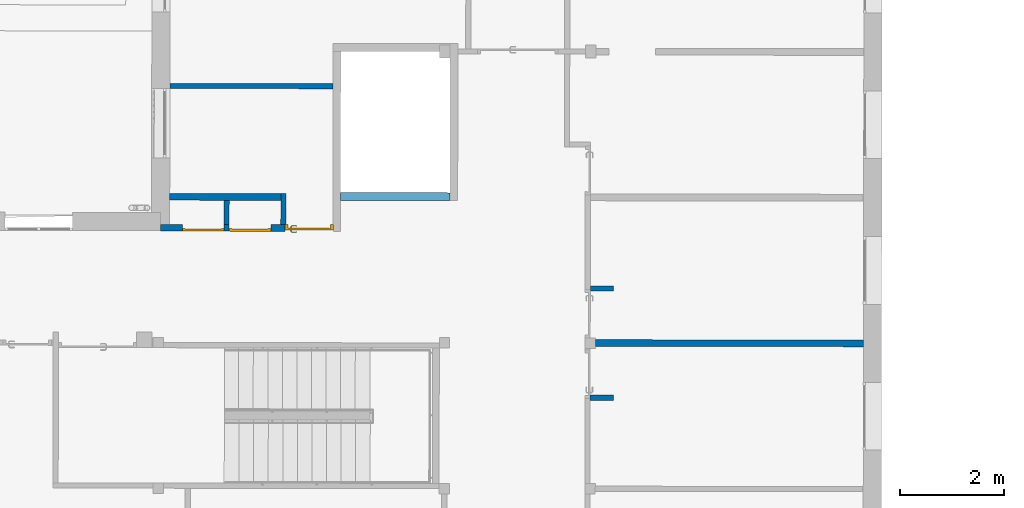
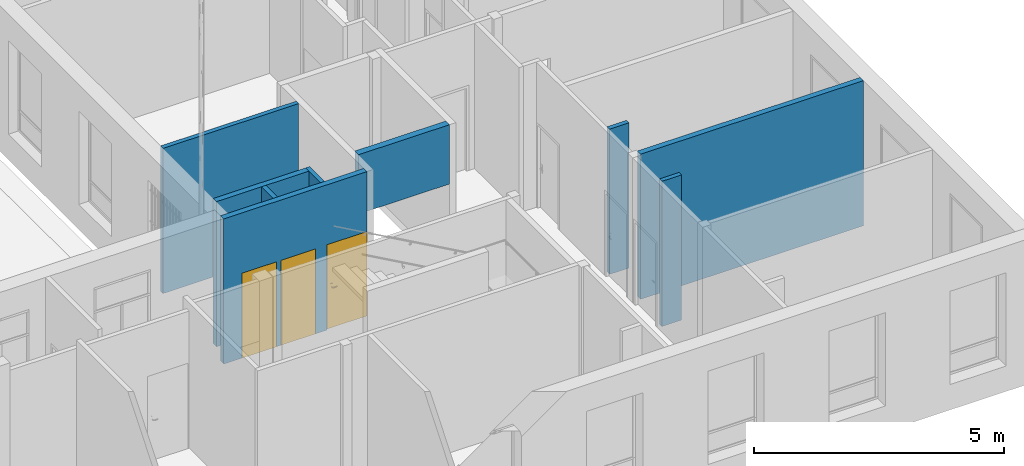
# One storey, part 75 of 101: 9 walls, 3 doors, 4 openings.
"""IFC2X3 building model written with IfcOpenShell, lengths in metres."""

from ifc_helpers import new_model, entity, si_unit, converted_unit, derived_unit, direction, frame, frame_2d, origin, place, context, subcontext, project, spatial, polyline, rectangle, outline, extrude, faceted_brep, source, transform, mapped, material, material_list, layer, layer_set, layer_usage, type_object, type_shapes, element, fill, save


model = new_model("IFC2X3")

# Units and contexts
model_context = context("Model", 3, precision=1e-05, world=origin(), true_north=direction((6.123233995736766e-17, 1.0)))
body_context = subcontext(model_context, "Body", "Model", "MODEL_VIEW")
ifc_project = project(units=[si_unit("LENGTHUNIT", "METRE"), si_unit("AREAUNIT", "SQUARE_METRE"), converted_unit("PLANEANGLEUNIT", "DEGREE", entity("IfcPlaneAngleMeasure", 0.017453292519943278), si_unit("PLANEANGLEUNIT", "RADIAN"), dimensions=[0, 0, 0, 0, 0, 0, 0]), derived_unit("THERMALTRANSMITTANCEUNIT", [(si_unit("MASSUNIT", "GRAM", prefix="KILO"), 1), (si_unit("THERMODYNAMICTEMPERATUREUNIT", "KELVIN"), -1), (si_unit("TIMEUNIT", "SECOND"), -3)])], contexts=[model_context])

# Site, building, storey
site_placement = place(None, frame((1253.6752467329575, 2072.143113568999, 91.49999999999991), z_axis=(0.0, 0.0, 1.0), x_axis=(0.7237211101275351, 0.6900925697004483, 0.0)))
site = spatial("IfcSite", under=ifc_project, at=site_placement, Name="Surface", CompositionType="ELEMENT")
building_placement = place(site_placement, origin())
building = spatial("IfcBuilding", under=site, at=building_placement, CompositionType="ELEMENT")
storey_placement = place(building_placement, origin())
storey = spatial("IfcBuildingStorey", under=building, at=storey_placement, Name="0- Rdc", CompositionType="ELEMENT", Elevation=-5.764692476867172e-13)

# Wall, openings, doors
ifc_material_1 = material(Name="OMD_Béton blanc")
ifc_layer_1 = layer(ifc_material_1, 0.12999999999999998)
ifc_layer_set_1 = layer_set([ifc_layer_1], Name="Mur de base:MUR 13")
ifc_layer_usage_1 = layer_usage(ifc_layer_set_1, "AXIS2", "NEGATIVE", 0.06499999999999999)
wall_type_1 = type_object("IfcWallType", Name="Mur de base:MUR 13", PredefinedType="STANDARD", material=ifc_layer_set_1)
wall_1_placement = place(storey_placement, frame((177.69139623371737, -16.14745948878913, 0.0), z_axis=(0.0, 0.0, 1.0), x_axis=(-0.7228702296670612, 0.6909838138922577, 0.0)))
wall_1 = element("IfcWallStandardCase", 1, at=wall_1_placement, inside=storey, type_object=wall_type_1, material=ifc_layer_usage_1, Name="Mur de base:MUR 13", ObjectType="Mur de base:MUR 13", context=body_context, shape_type="SweptSolid", body=[
    extrude(rectangle(XDim=3.3091404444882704, YDim=0.13000000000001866, at=frame_2d((1.6545702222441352, 4.0245584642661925e-16), x_axis=(-1.0, 0.0))), origin(), (0.0, 0.0, 1.0), 3.5499999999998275),
])
opening_1_placement = place(wall_1_placement, frame((2.8900000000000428, 0.06500000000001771, 0.0)))
opening_1 = element("IfcOpeningElement", 2, at=opening_1_placement, cuts=wall_1, Name="Grz_Placard 1V:80X204:1", ObjectType="Opening", context=body_context, shape_type="SweptSolid", body=[
    extrude(rectangle(XDim=2.0749999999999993, YDim=0.8, at=frame_2d((1.0374999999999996, 0.4), x_axis=(1.0, 0.0))), frame((0.0, 0.0, 0.0), z_axis=(0.0, -1.0, 0.0), x_axis=(0.0, 0.0, 1.0)), (0.0, 0.0, 1.0), 0.12999999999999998),
])
opening_2_placement = place(wall_1_placement, frame((1.9900000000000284, 0.06500000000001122, 0.0)))
opening_2 = element("IfcOpeningElement", 3, at=opening_2_placement, cuts=wall_1, Name="Grz_Placard 1V:80X204:1", ObjectType="Opening", context=body_context, shape_type="SweptSolid", body=[
    extrude(rectangle(XDim=2.0749999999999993, YDim=0.8, at=frame_2d((1.0374999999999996, 0.4), x_axis=(1.0, 0.0))), frame((0.0, 0.0, 0.0), z_axis=(0.0, -1.0, 0.0), x_axis=(0.0, 0.0, 1.0)), (0.0, 0.0, 1.0), 0.12999999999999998),
])
opening_3_placement = place(wall_1_placement, frame((-0.01749999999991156, -0.06499999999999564, 0.0)))
opening_3 = element("IfcOpeningElement", 4, at=opening_3_placement, cuts=wall_1, Name="OMD_Porte 1V tunnel:80x204:1", ObjectType="Opening", context=body_context, shape_type="SweptSolid", body=[
    extrude(rectangle(XDim=2.0850000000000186, YDim=0.9349999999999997, at=frame_2d((1.0425000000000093, 0.46749999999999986), x_axis=(1.0, 0.0))), frame((0.0, 0.0, 0.0), z_axis=(0.0, 1.0, 0.0), x_axis=(0.0, 0.0, 1.0)), (0.0, 0.0, 1.0), 0.12999999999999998),
])
ifc_material_2 = material(Name="Porte - Poignée")
ifc_material_3 = material(Name="OMD_Peinture mur")
ifc_material_4 = material(Name="OMD_Bois")
ifc_material_list_1 = material_list([ifc_material_2, ifc_material_3, ifc_material_4])
door_style_1 = type_object("IfcDoorStyle", Name="OMD_Porte 1V tunnel:80x204", ConstructionType="NOTDEFINED", OperationType="NOTDEFINED", ParameterTakesPrecedence=False, Sizeable=False, material=ifc_material_list_1)
shared_shape_1 = source(origin(), body_context, "Body", "Brep", [
    faceted_brep([(0.21297470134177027, 0.06500000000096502, 1.0077804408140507), (0.20900000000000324, 0.06500000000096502, 1.0069999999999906), (0.208999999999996, 0.06500000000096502, 0.9929999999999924), (0.21297470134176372, 0.06500000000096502, 0.9922195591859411), (0.21702529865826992, 0.06500000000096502, 0.9922195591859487), (0.22100000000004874, 0.06500000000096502, 0.9930000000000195), (0.22100000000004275, 0.06500000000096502, 1.0069999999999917), (0.2170252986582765, 0.06500000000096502, 1.007780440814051), (0.22100000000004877, 0.08748520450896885, 0.9930000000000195), (0.22100000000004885, 0.08748520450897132, 1.0069999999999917), (0.21702529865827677, 0.08913157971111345, 1.007780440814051), (0.23083890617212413, 0.10294518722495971, 1.007780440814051), (0.2291610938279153, 0.10699578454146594, 1.0077804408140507), (0.21297470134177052, 0.09080939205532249, 1.0077804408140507), (0.3206847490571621, 0.09646731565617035, 1.0077804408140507), (0.32354895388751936, 0.09933152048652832, 1.0077804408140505), (0.31588468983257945, 0.10699578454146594, 1.0077804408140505), (0.31420687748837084, 0.10294518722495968, 1.0077804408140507), (0.20900000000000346, 0.09245576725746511, 1.0069999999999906), (0.20900000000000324, 0.0924557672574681, 0.9929999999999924), (0.21297470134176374, 0.0908093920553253, 0.9922195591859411), (0.22916109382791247, 0.1069957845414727, 0.9922195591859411), (0.23083890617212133, 0.10294518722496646, 0.9922195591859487), (0.21702529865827, 0.08913157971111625, 0.9922195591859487), (0.32354895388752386, 0.09933152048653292, 0.9922195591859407), (0.3206847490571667, 0.09646731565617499, 0.9922195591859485), (0.3142068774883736, 0.10294518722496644, 0.9922195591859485), (0.3158846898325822, 0.10699578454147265, 0.9922195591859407), (0.23248528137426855, 0.09897048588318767, 0.9930000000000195), (0.23248528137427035, 0.09897048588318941, 1.0069999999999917), (0.22751471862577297, 0.11097048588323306, 1.0069999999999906), (0.22751471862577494, 0.1109704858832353, 0.9929999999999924), (0.2725228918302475, 0.09897048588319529, 0.9930000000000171), (0.3125605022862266, 0.09897048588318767, 0.9930000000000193), (0.31256050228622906, 0.09897048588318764, 1.0069999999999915), (0.2725228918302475, 0.09897048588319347, 1.0069999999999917), (0.2725228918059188, 0.10512492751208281, 1.0078781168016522), (0.31753106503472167, 0.11097048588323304, 1.0069999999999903), (0.2776005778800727, 0.11097048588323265, 1.0069999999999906), (0.31753106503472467, 0.11097048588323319, 0.9929999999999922), (0.2674452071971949, 0.11097048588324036, 0.9929999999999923), (0.2725228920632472, 0.10512492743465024, 0.9921218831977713), (0.317874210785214, 0.09365677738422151, 0.9930000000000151), (0.32635949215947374, 0.10214205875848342, 0.99299999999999), (0.3263594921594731, 0.10214205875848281, 1.0069999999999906), (0.317874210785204, 0.09365677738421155, 1.0069999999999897)], [[[0, 1, 2, 3, 4, 5, 6, 7]], [[6, 5, 8, 9]], [[9, 10, 7, 6]], [[10, 11, 12, 13, 0, 7]], [[14, 15, 16, 17]], [[13, 18, 1, 0]], [[2, 1, 18, 19]], [[19, 20, 3, 2]], [[20, 21, 22, 23, 4, 3]], [[24, 25, 26, 27]], [[23, 8, 5, 4]], [[9, 8, 28, 29]], [[29, 11, 10, 9]], [[12, 30, 18, 13]], [[19, 18, 30, 31]], [[31, 21, 20, 19]], [[22, 28, 8, 23]], [[29, 28, 32, 33, 34, 35]], [[11, 35, 36]], [[16, 37, 38]], [[30, 12, 38]], [[38, 12, 36]], [[36, 35, 17]], [[17, 16, 36]], [[35, 11, 29]], [[34, 17, 35]], [[11, 36, 12]], [[38, 36, 16]], [[31, 30, 38, 37, 39, 40]], [[40, 41, 21]], [[41, 40, 27]], [[21, 31, 40]], [[39, 27, 40]], [[41, 32, 22]], [[22, 21, 41]], [[26, 32, 41]], [[28, 22, 32]], [[32, 26, 33]], [[26, 41, 27]], [[42, 25, 24, 43, 44, 15, 14, 45]], [[34, 33, 42, 45]], [[45, 14, 17, 34]], [[15, 44, 37, 16]], [[39, 37, 44, 43]], [[43, 24, 27, 39]], [[25, 42, 33, 26]]]),
    faceted_brep([(0.21297470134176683, 0.02500000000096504, 1.0077804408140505), (0.2170252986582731, 0.02500000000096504, 1.007780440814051), (0.2210000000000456, 0.02500000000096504, 1.006999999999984), (0.22100000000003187, 0.02500000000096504, 0.9930000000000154), (0.21702529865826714, 0.02500000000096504, 0.9922195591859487), (0.21297470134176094, 0.02500000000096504, 0.992219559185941), (0.20900000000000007, 0.02500000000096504, 0.992999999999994), (0.20900000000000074, 0.02500000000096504, 1.0069999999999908), (0.20900000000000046, -0.0026509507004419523, 1.0069999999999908), (0.21297470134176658, -0.0010045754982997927, 1.0077804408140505), (0.22902358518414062, -0.017053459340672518, 1.0077804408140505), (0.2307013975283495, -0.013002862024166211, 1.007780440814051), (0.21702529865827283, 0.0006732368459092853, 1.007780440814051), (0.3235218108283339, -0.009389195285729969, 1.0077804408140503), (0.3206576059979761, -0.006524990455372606, 1.0077804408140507), (0.3141797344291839, -0.013002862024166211, 1.0077804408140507), (0.31585754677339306, -0.017053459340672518, 1.0077804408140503), (0.22100000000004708, 0.002319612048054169, 1.0069999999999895), (0.22100000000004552, 0.0023196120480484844, 0.9930000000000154), (0.21702529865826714, 0.0006732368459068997, 0.9922195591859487), (0.23070139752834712, -0.013002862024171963, 0.9922195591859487), (0.2290235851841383, -0.017053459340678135, 0.992219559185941), (0.21297470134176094, -0.0010045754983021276, 0.992219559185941), (0.32065760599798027, -0.0065249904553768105, 0.9922195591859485), (0.3235218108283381, -0.009389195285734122, 0.9922195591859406), (0.31585754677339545, -0.017053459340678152, 0.9922195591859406), (0.3141797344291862, -0.013002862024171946, 0.9922195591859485), (0.20899999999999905, -0.002650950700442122, 0.9929999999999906), (0.22737720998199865, -0.02102816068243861, 1.0069999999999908), (0.23234777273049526, -0.009028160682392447, 1.0069999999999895), (0.23234777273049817, -0.009028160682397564, 0.9930000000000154), (0.22737720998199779, -0.02102816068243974, 0.9929999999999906), (0.2673076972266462, -0.021028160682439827, 1.0069999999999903), (0.272440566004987, -0.01518280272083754, 1.0078781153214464), (0.3175039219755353, -0.021028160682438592, 1.0069999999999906), (0.27244056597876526, -0.009028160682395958, 1.0069999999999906), (0.3125333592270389, -0.009028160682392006, 1.0069999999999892), (0.31253335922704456, -0.009028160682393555, 0.9930000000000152), (0.27244056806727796, -0.00902816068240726, 0.9930000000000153), (0.27244056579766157, -0.015182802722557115, 0.9921218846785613), (0.3175039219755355, -0.02102816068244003, 0.9929999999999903), (0.27757344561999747, -0.021028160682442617, 0.9929999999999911), (0.3178470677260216, -0.0037144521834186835, 1.0069999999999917), (0.3263323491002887, -0.012199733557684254, 1.0069999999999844), (0.3263323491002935, -0.012199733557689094, 0.9929999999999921), (0.31784706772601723, -0.003714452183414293, 0.9930000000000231)], [[[0, 1, 2, 3, 4, 5, 6, 7]], [[8, 9, 0, 7]], [[9, 10, 11, 12, 1, 0]], [[13, 14, 15, 16]], [[12, 17, 2, 1]], [[3, 2, 17, 18]], [[18, 19, 4, 3]], [[19, 20, 21, 22, 5, 4]], [[23, 24, 25, 26]], [[22, 27, 6, 5]], [[7, 6, 27, 8]], [[28, 10, 9, 8]], [[11, 29, 17, 12]], [[18, 17, 29, 30]], [[30, 20, 19, 18]], [[21, 31, 27, 22]], [[8, 27, 31, 28]], [[32, 33, 10]], [[33, 32, 16]], [[10, 28, 32]], [[34, 16, 32]], [[33, 35, 11]], [[11, 10, 33]], [[15, 35, 33]], [[29, 11, 35]], [[35, 15, 36]], [[15, 33, 16]], [[30, 29, 35, 36, 37, 38]], [[20, 38, 39]], [[25, 40, 41]], [[31, 21, 41]], [[41, 21, 39]], [[39, 38, 26]], [[26, 25, 39]], [[38, 20, 30]], [[37, 26, 38]], [[20, 39, 21]], [[41, 39, 25]], [[28, 31, 41, 40, 34, 32]], [[42, 14, 13, 43, 44, 24, 23, 45]], [[43, 13, 16, 34]], [[14, 42, 36, 15]], [[37, 36, 42, 45]], [[45, 23, 26, 37]], [[24, 44, 40, 25]], [[34, 40, 44, 43]]]),
    faceted_brep([(0.22535276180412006, 0.06000000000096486, 0.8660039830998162), (0.2350000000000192, 0.06000000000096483, 0.8700000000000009), (0.2350000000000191, 0.06000000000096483, 1.0800000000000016), (0.2253527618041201, 0.06000000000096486, 1.0839960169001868), (0.21500000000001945, 0.06000000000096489, 1.0853589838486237), (0.20464723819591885, 0.06000000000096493, 1.0839960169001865), (0.19500000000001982, 0.06000000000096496, 1.0800000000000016), (0.19500000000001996, 0.06000000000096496, 0.8700000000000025), (0.20464723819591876, 0.06000000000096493, 0.866003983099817), (0.21500000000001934, 0.06000000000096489, 0.8646410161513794), (0.22535276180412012, 0.06500000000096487, 1.0839960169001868), (0.2350000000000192, 0.06500000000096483, 1.0800000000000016), (0.23500000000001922, 0.06500000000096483, 0.8700000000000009), (0.22535276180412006, 0.06500000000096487, 0.8660039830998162), (0.21500000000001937, 0.0650000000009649, 0.8646410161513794), (0.20464723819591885, 0.06500000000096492, 0.866003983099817), (0.19500000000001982, 0.06500000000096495, 0.8700000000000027), (0.19500000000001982, 0.06500000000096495, 1.0800000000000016), (0.20464723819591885, 0.06500000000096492, 1.0839960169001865), (0.21500000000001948, 0.0650000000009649, 1.0853589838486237)], [[[0, 1, 2, 3, 4, 5, 6, 7, 8, 9]], [[10, 11, 12, 13, 14, 15, 16, 17, 18, 19]], [[11, 10, 3, 2]], [[3, 10, 19, 4]], [[19, 18, 5, 4]], [[18, 17, 6, 5]], [[7, 6, 17, 16]], [[16, 15, 8, 7]], [[8, 15, 14, 9]], [[14, 13, 0, 9]], [[13, 12, 1, 0]], [[2, 1, 12, 11]]]),
    faceted_brep([(0.22535276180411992, 0.02500000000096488, 0.8660039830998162), (0.2350000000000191, 0.025000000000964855, 0.8700000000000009), (0.23500000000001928, 0.025000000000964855, 1.0800000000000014), (0.22535276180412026, 0.02500000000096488, 1.0839960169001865), (0.2150000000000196, 0.025000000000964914, 1.0853589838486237), (0.20464723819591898, 0.025000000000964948, 1.0839960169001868), (0.19500000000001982, 0.02500000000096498, 1.0800000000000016), (0.19500000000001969, 0.02500000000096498, 0.8700000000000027), (0.20464723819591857, 0.025000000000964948, 0.8660039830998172), (0.21500000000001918, 0.025000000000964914, 0.8646410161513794), (0.22535276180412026, 0.03000000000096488, 1.0839960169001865), (0.2350000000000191, 0.030000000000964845, 1.0800000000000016), (0.2350000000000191, 0.030000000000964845, 0.8700000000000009), (0.22535276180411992, 0.03000000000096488, 0.8660039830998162), (0.21500000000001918, 0.030000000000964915, 0.8646410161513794), (0.20464723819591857, 0.030000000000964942, 0.8660039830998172), (0.19500000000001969, 0.030000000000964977, 0.8700000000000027), (0.19500000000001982, 0.030000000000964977, 1.0800000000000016), (0.20464723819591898, 0.030000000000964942, 1.0839960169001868), (0.2150000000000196, 0.030000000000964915, 1.0853589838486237)], [[[0, 1, 2, 3, 4, 5, 6, 7, 8, 9]], [[10, 11, 12, 13, 14, 15, 16, 17, 18, 19]], [[16, 15, 8, 7]], [[8, 15, 14, 9]], [[14, 13, 0, 9]], [[13, 12, 1, 0]], [[2, 1, 12, 11]], [[11, 10, 3, 2]], [[3, 10, 19, 4]], [[19, 18, 5, 4]], [[18, 17, 6, 5]], [[7, 6, 17, 16]]]),
    faceted_brep([(0.14500000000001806, 0.060000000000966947, 0.0), (0.9900000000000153, 0.060000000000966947, 0.0), (0.9900000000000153, 0.030000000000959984, 0.0), (0.14500000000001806, 0.030000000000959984, 0.0), (0.14500000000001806, 0.060000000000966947, 2.04), (0.14500000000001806, 0.030000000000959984, 2.04), (0.9900000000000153, 0.030000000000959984, 2.04), (0.9900000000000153, 0.060000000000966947, 2.04)], [[[0, 1, 2, 3]], [[4, 0, 3, 5]], [[5, 3, 2, 6]], [[6, 2, 1, 7]], [[7, 1, 0, 4]], [[4, 5, 6, 7]]]),
    faceted_brep([(0.10000000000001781, 0.030000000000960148, 0.0), (0.10000000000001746, 0.13000000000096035, 0.0), (0.1600000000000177, 0.13000000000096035, 0.0), (0.1600000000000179, 0.06000000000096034, 0.0), (0.14500000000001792, 0.06000000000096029, 0.0), (0.14500000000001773, 0.030000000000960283, 0.0), (0.1450000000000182, 0.0300000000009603, 2.0399999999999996), (0.9900000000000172, 0.03000000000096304, 2.0399999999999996), (0.9900000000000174, 0.030000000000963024, 0.0), (1.0350000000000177, 0.030000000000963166, 0.0), (1.0350000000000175, 0.030000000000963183, 2.085), (0.10000000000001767, 0.030000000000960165, 2.0850000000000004), (0.14500000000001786, 0.06000000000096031, 2.0399999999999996), (0.16000000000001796, 0.06000000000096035, 2.025), (0.9750000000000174, 0.06000000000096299, 2.025), (0.9750000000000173, 0.06000000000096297, 0.0), (0.9900000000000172, 0.06000000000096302, 0.0), (0.9900000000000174, 0.06000000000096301, 2.0399999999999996), (0.16000000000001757, 0.13000000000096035, 2.025), (0.10000000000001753, 0.13000000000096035, 2.085), (1.0350000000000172, 0.13000000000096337, 2.085), (1.0350000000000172, 0.13000000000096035, 0.0), (0.9750000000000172, 0.13000000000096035, 0.0), (0.9750000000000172, 0.13000000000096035, 2.025)], [[[0, 1, 2, 3, 4, 5]], [[5, 6, 7, 8, 9, 10, 11, 0]], [[4, 12, 6, 5]], [[3, 13, 14, 15, 16, 17, 12, 4]], [[2, 18, 13, 3]], [[1, 19, 20, 21, 22, 23, 18, 2]], [[0, 11, 19, 1]], [[10, 9, 21, 20]], [[9, 8, 16, 15, 22, 21]], [[17, 16, 8, 7]], [[23, 22, 15, 14]], [[12, 17, 7, 6]], [[18, 23, 14, 13]], [[11, 10, 20, 19]]]),
])
type_shapes(door_style_1, [shared_shape_1])
door_1_placement = place(opening_3_placement, frame((1.034999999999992, 0.12999999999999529, 0.0), z_axis=(0.0, 0.0, 1.0), x_axis=(-1.0, 0.0, 0.0)))
door_1 = element("IfcDoor", 5, at=door_1_placement, inside=storey, type_object=door_style_1, material=ifc_material_list_1, Name="OMD_Porte 1V tunnel:80x204", ObjectType="OMD_Porte 1V tunnel:80x204", OverallHeight=2.0850000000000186, OverallWidth=0.9350000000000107, context=body_context, shape_type="MappedRepresentation", body=[
    mapped(shared_shape_1, transform((0.0, 0.0, 0.0), scale=1.0)),
])
fill(opening_3, door_1)
ifc_material_5 = material(Name="Porte - Panneau")
ifc_material_6 = material(Name="Porte - Cadre")
ifc_material_list_2 = material_list([ifc_material_5, ifc_material_6])
door_style_2 = type_object("IfcDoorStyle", Name="Grz_Placard 1V:80X204", ConstructionType="NOTDEFINED", OperationType="DOUBLE_DOOR_SINGLE_SWING", ParameterTakesPrecedence=False, Sizeable=False, material=ifc_material_list_2)
shared_shape_2 = source(origin(), body_context, "Body", "Brep", [
    faceted_brep([(0.03499999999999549, 0.0, 2.04), (0.03499999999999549, 0.0, 0.0), (0.7649999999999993, 0.0, 0.0), (0.7649999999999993, 0.0, 2.04), (0.03499999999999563, 0.040000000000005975, 2.04), (0.03499999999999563, 0.040000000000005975, 0.0), (0.7649999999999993, 0.04000000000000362, 0.0), (0.7649999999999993, 0.04000000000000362, 2.04)], [[[0, 1, 2, 3]], [[1, 0, 4, 5]], [[2, 1, 5, 6]], [[3, 2, 6, 7]], [[4, 7, 6, 5]], [[0, 3, 7, 4]]]),
    faceted_brep([(0.0, 0.050000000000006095, 0.0), (0.04999999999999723, 0.05000000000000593, 0.0), (0.04999999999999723, 0.040000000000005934, 0.0), (0.03499999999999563, 0.04000000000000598, 0.0), (0.03499999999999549, 0.0, 0.0), (0.0, 0.0, 0.0), (0.0, 0.050000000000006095, 2.0749999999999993), (0.8000000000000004, 0.05000000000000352, 2.0749999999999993), (0.8000000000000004, 0.05000000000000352, 0.0), (0.7500000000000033, 0.05000000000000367, 0.0), (0.7500000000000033, 0.05000000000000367, 2.025000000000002), (0.049999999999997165, 0.05000000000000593, 2.025000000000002), (0.049999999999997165, 0.040000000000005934, 2.025000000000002), (0.7500000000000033, 0.04000000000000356, 2.025000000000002), (0.7500000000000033, 0.04000000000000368, 0.0), (0.765000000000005, 0.04000000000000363, 0.0), (0.765000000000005, 0.04000000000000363, 2.0400000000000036), (0.03499999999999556, 0.04000000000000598, 2.0400000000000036), (0.03499999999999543, 0.0, 2.0400000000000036), (0.7650000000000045, 0.0, 2.0400000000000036), (0.7650000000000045, 0.0, 0.0), (0.8, 0.0, 0.0), (0.8, 0.0, 2.0749999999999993), (0.0, 0.0, 2.0749999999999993)], [[[0, 1, 2, 3, 4, 5]], [[1, 0, 6, 7, 8, 9, 10, 11]], [[2, 1, 11, 12]], [[3, 2, 12, 13, 14, 15, 16, 17]], [[4, 3, 17, 18]], [[5, 4, 18, 19, 20, 21, 22, 23]], [[0, 5, 23, 6]], [[7, 22, 21, 8]], [[8, 21, 20, 15, 14, 9]], [[13, 10, 9, 14]], [[19, 16, 15, 20]], [[12, 11, 10, 13]], [[18, 17, 16, 19]], [[6, 23, 22, 7]]]),
])
type_shapes(door_style_2, [shared_shape_2])
door_2_placement = place(opening_1_placement, frame((0.0, 0.0, 0.0), z_axis=(0.0, 0.0, 1.0), x_axis=(-1.0, 0.0, 0.0)))
door_2 = element("IfcDoor", 6, at=door_2_placement, inside=storey, type_object=door_style_2, material=ifc_material_list_2, Name="Grz_Placard 1V:80X204", ObjectType="Grz_Placard 1V:80X204", OverallHeight=2.0749999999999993, OverallWidth=0.8000000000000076, context=body_context, shape_type="MappedRepresentation", body=[
    mapped(shared_shape_2, transform((0.0, 0.0, 0.0), scale=1.0)),
])
fill(opening_1, door_2)
door_3_placement = place(opening_2_placement, frame((0.0, 0.0, 0.0), z_axis=(0.0, 0.0, 1.0), x_axis=(-1.0, 0.0, 0.0)))
door_3 = element("IfcDoor", 7, at=door_3_placement, inside=storey, type_object=door_style_2, material=ifc_material_list_2, Name="Grz_Placard 1V:80X204", ObjectType="Grz_Placard 1V:80X204", OverallHeight=2.0749999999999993, OverallWidth=0.8000000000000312, context=body_context, shape_type="MappedRepresentation", body=[
    mapped(shared_shape_2, transform((0.0, 0.0, 0.0), scale=1.0)),
])
fill(opening_2, door_3)

# Walls
ifc_layer_usage_2 = layer_usage(ifc_layer_set_1, "AXIS2", "NEGATIVE", 0.06499999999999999)
wall_2_placement = place(storey_placement, frame((175.83714114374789, -13.55188952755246, 0.0), z_axis=(0.0, 0.0, 1.0), x_axis=(0.7228702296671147, -0.6909838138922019, 0.0)))
element("IfcWallStandardCase", 8, at=wall_2_placement, inside=storey, type_object=wall_type_1, material=ifc_layer_usage_2, Name="Mur de base:MUR 13", ObjectType="Mur de base:MUR 13", context=body_context, shape_type="SweptSolid", body=[
    extrude(outline(polyline([(-0.043333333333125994, -1.0579503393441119), (0.086666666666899, -1.057950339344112), (0.08666666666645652, 1.0758690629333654), (-0.04333333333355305, 1.0759322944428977), (-0.043333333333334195, 0.03204966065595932), (-0.04333333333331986, -0.06795033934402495), (-0.043333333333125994, -1.0579503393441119)])), frame((1.0759322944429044, -0.02166666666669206, 0.0), z_axis=(0.0, 0.0, 1.0), x_axis=(0.0, 1.0, 0.0)), (0.0, 0.0, 1.0), 3.5499999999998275),
])
ifc_layer_usage_3 = layer_usage(ifc_layer_set_1, "AXIS2", "NEGATIVE", 0.06499999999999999)
wall_3_placement = place(storey_placement, frame((183.5410532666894, -24.789423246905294, 0.0), z_axis=(0.0, 0.0, 1.0), x_axis=(-0.7228702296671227, 0.6909838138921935, 0.0)))
element("IfcWallStandardCase", 9, at=wall_3_placement, inside=storey, type_object=wall_type_1, material=ifc_layer_usage_3, Name="Mur de base:MUR 13", ObjectType="Mur de base:MUR 13", context=body_context, shape_type="SweptSolid", body=[
    extrude(rectangle(XDim=5.149999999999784, YDim=0.1299999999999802, at=frame_2d((2.574999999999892, -1.0824674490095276e-15), x_axis=(-1.0, 0.0))), origin(), (0.0, 0.0, 1.0), 3.5499999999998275),
])
ifc_layer_2 = layer(ifc_material_1, 0.1)
ifc_layer_set_2 = layer_set([ifc_layer_2], Name="Mur de base:MUR 10")
ifc_layer_usage_4 = layer_usage(ifc_layer_set_2, "AXIS2", "NEGATIVE", 0.05)
wall_type_2 = type_object("IfcWallType", Name="Mur de base:MUR 10", PredefinedType="STANDARD", material=ifc_layer_set_2)
wall_4_placement = place(storey_placement, frame((179.57432712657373, -14.177638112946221, 0.0), z_axis=(0.0, 0.0, 1.0), x_axis=(-0.7228702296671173, 0.6909838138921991, 0.0)))
element("IfcWallStandardCase", 10, at=wall_4_placement, inside=storey, type_object=wall_type_2, material=ifc_layer_usage_4, Name="Mur de base:MUR 10", ObjectType="Mur de base:MUR 10", context=body_context, shape_type="SweptSolid", body=[
    extrude(outline(polyline([(-0.049238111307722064, -1.5664073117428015), (0.05076190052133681, -1.5664073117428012), (0.049238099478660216, 1.566431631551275), (-0.050761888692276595, 1.5663829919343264), (-0.049238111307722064, -1.5664073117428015)])), frame((1.5664074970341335, 0.0, 0.0), z_axis=(0.0, 0.0, 1.0), x_axis=(0.00048639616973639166, 0.9999998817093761, 0.0)), (0.0, 0.0, 1.0), 3.5499999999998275),
])
ifc_layer_usage_5 = layer_usage(ifc_layer_set_2, "AXIS2", "NEGATIVE", 0.05)
wall_5_placement = place(storey_placement, frame((177.46071883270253, -15.013930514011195, 0.0), z_axis=(0.0, 0.0, 1.0), x_axis=(-0.6909838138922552, -0.7228702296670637, 0.0)))
element("IfcWallStandardCase", 11, at=wall_5_placement, inside=storey, type_object=wall_type_2, material=ifc_layer_usage_5, Name="Mur de base:MUR 10", ObjectType="Mur de base:MUR 10", context=body_context, shape_type="SweptSolid", body=[
    extrude(rectangle(XDim=0.5950000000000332, YDim=0.10000000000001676, at=frame_2d((0.2975000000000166, 7.389922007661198e-16), x_axis=(-1.0, 0.0))), origin(), (0.0, 0.0, 1.0), 3.5499999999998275),
])
ifc_layer_usage_6 = layer_usage(ifc_layer_set_2, "AXIS2", "NEGATIVE", 0.05)
wall_6_placement = place(storey_placement, frame((176.58296238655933, -14.354731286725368, 0.0), z_axis=(0.0, 0.0, 1.0), x_axis=(-0.6909838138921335, -0.72287022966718, 0.0)))
element("IfcWallStandardCase", 12, at=wall_6_placement, inside=storey, type_object=wall_type_2, material=ifc_layer_usage_6, Name="Mur de base:MUR 10", ObjectType="Mur de base:MUR 10", context=body_context, shape_type="SweptSolid", body=[
    extrude(rectangle(XDim=0.4649999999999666, YDim=0.10000000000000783, at=frame_2d((0.2324999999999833, -2.0365653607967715e-15), x_axis=(-1.0, 0.0))), origin(), (0.0, 0.0, 1.0), 3.5499999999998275),
])
ifc_layer_usage_7 = layer_usage(ifc_layer_set_2, "AXIS2", "NEGATIVE", 0.05)
wall_7_placement = place(storey_placement, frame((180.79680916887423, -20.71368719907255, 0.0), z_axis=(0.0, 0.0, 1.0), x_axis=(-0.72287022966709, 0.6909838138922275, 0.0)))
element("IfcWallStandardCase", 13, at=wall_7_placement, inside=storey, type_object=wall_type_2, material=ifc_layer_usage_7, Name="Mur de base:MUR 10", ObjectType="Mur de base:MUR 10", context=body_context, shape_type="SweptSolid", body=[
    extrude(rectangle(XDim=0.449999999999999, YDim=0.10000000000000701, at=frame_2d((0.2249999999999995, -3.930883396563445e-15), x_axis=(-1.0, 0.0))), origin(), (0.0, 0.0, 1.0), 3.5499999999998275),
])
ifc_layer_usage_8 = layer_usage(ifc_layer_set_2, "AXIS2", "NEGATIVE", 0.05)
wall_8_placement = place(storey_placement, frame((179.34574315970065, -22.231714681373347, 0.0), z_axis=(0.0, 0.0, 1.0), x_axis=(-0.7228702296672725, 0.6909838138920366, 0.0)))
element("IfcWallStandardCase", 14, at=wall_8_placement, inside=storey, type_object=wall_type_2, material=ifc_layer_usage_8, Name="Mur de base:MUR 10", ObjectType="Mur de base:MUR 10", context=body_context, shape_type="SweptSolid", body=[
    extrude(rectangle(XDim=0.4499999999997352, YDim=0.10000000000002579, at=frame_2d((0.2249999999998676, -6.38378239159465e-16), x_axis=(-1.0, 0.0))), origin(), (0.0, 0.0, 1.0), 3.5499999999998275),
])

# Wall, opening
ifc_layer_3 = layer(ifc_material_1, 0.14999999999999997)
ifc_layer_set_3 = layer_set([ifc_layer_3], Name="Mur de base:MUR 15")
ifc_layer_usage_9 = layer_usage(ifc_layer_set_3, "AXIS2", "NEGATIVE", 0.07499999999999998)
wall_type_3 = type_object("IfcWallType", Name="Mur de base:MUR 15", PredefinedType="STANDARD", material=ifc_layer_set_3)
wall_9_placement = place(storey_placement, frame((179.73589945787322, -17.26483658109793, 2.0999999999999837), z_axis=(0.0, 0.0, 1.0), x_axis=(-0.7228702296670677, 0.6909838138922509, 0.0)))
wall_9 = element("IfcWallStandardCase", 15, at=wall_9_placement, inside=storey, type_object=wall_type_3, material=ifc_layer_usage_9, Name="Mur de base:MUR 15", ObjectType="Mur de base:MUR 15", context=body_context, shape_type="SweptSolid", body=[
    extrude(rectangle(XDim=2.1000000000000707, YDim=0.15000000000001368, at=frame_2d((1.0500000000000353, 1.2698175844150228e-15), x_axis=(-1.0, 0.0))), origin(), (0.0, 0.0, 1.0), 1.4499999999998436),
])
opening_4_placement = place(wall_9_placement, frame((141.8554535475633, 111.71436091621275, -2.0999999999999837), z_axis=(0.0, 0.0, 1.0), x_axis=(-0.7228702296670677, -0.6909838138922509, 0.0)))
element("IfcOpeningElement", 16, at=opening_4_placement, cuts=wall_9, Name="Mur de base:MUR 15", ObjectType="Opening", context=body_context, shape_type="SweptSolid", body=[
    extrude(rectangle(XDim=2.0999999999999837, YDim=2.1000000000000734, at=frame_2d((1.1102230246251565e-16, -2.0761170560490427e-14), x_axis=(1.0, 0.0))), frame((179.97812126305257, -15.491864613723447, 1.0499999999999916), z_axis=(-0.6909838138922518, -0.7228702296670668, 0.0), x_axis=(0.0, 0.0, 1.0)), (0.0, 0.0, 1.0), 3.0480000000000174),
])

save(model, "model.ifc")
